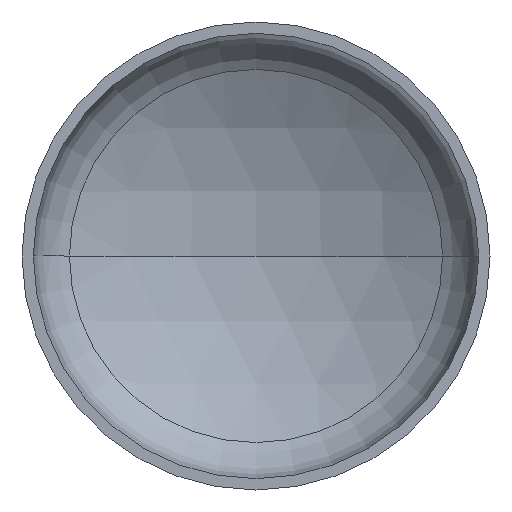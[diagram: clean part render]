
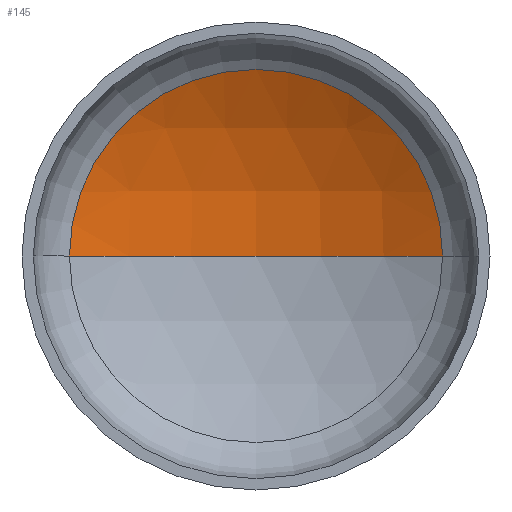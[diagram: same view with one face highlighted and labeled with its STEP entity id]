
A CAD part, front view. The second image highlights one B-rep face of the part: STEP entity #145.
In plain terms, the highlighted spherical face has radius 2240 mm.
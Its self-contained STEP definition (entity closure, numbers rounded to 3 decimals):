
#12 = AXIS2_PLACEMENT_3D ( 'NONE', #380, #200, #407 ) ;
#13 = AXIS2_PLACEMENT_3D ( 'NONE', #112, #318, #139 ) ;
#14 = AXIS2_PLACEMENT_3D ( 'NONE', #225, #60, #250 ) ;
#24 = AXIS2_PLACEMENT_3D ( 'NONE', #189, #401, #245 ) ;
#60 = DIRECTION ( 'NONE',  ( 0., -1., 0. ) ) ;
#61 = ORIENTED_EDGE ( 'NONE', *, *, #314, .T. ) ;
#77 = VERTEX_POINT ( 'NONE', #262 ) ;
#81 = CIRCLE ( 'NONE', #13, 2240. ) ;
#82 = VERTEX_POINT ( 'NONE', #263 ) ;
#88 = CIRCLE ( 'NONE', #14, 1116.287 ) ;
#112 = CARTESIAN_POINT ( 'NONE',  ( 0., -1449.234, 0. ) ) ;
#116 = CARTESIAN_POINT ( 'NONE',  ( 1116.287, 492.801, 0. ) ) ;
#139 = DIRECTION ( 'NONE',  ( -1., 0., 0. ) ) ;
#145 = ADVANCED_FACE ( 'NONE', ( #247 ), #339, .F. ) ;
#178 = EDGE_LOOP ( 'NONE', ( #405, #61, #218 ) ) ;
#189 = CARTESIAN_POINT ( 'NONE',  ( 0., -1449.234, 0. ) ) ;
#200 = DIRECTION ( 'NONE',  ( 0., 0., 1. ) ) ;
#218 = ORIENTED_EDGE ( 'NONE', *, *, #301, .T. ) ;
#225 = CARTESIAN_POINT ( 'NONE',  ( 0., 492.801, 0. ) ) ;
#245 = DIRECTION ( 'NONE',  ( -1., 0., 0. ) ) ;
#247 = FACE_OUTER_BOUND ( 'NONE', #178, .T. ) ;
#250 = DIRECTION ( 'NONE',  ( 1., 0., 0. ) ) ;
#262 = CARTESIAN_POINT ( 'NONE',  ( 0., 790.766, 0. ) ) ;
#263 = CARTESIAN_POINT ( 'NONE',  ( -1116.287, 492.801, 0. ) ) ;
#301 = EDGE_CURVE ( 'NONE', #385, #82, #88, .T. ) ;
#314 = EDGE_CURVE ( 'NONE', #77, #385, #81, .T. ) ;
#318 = DIRECTION ( 'NONE',  ( 0., 0., -1. ) ) ;
#320 = EDGE_CURVE ( 'NONE', #77, #82, #376, .T. ) ;
#339 = SPHERICAL_SURFACE ( 'NONE', #24, 2240. ) ;
#376 = CIRCLE ( 'NONE', #12, 2240. ) ;
#380 = CARTESIAN_POINT ( 'NONE',  ( 0., -1449.234, 0. ) ) ;
#385 = VERTEX_POINT ( 'NONE', #116 ) ;
#401 = DIRECTION ( 'NONE',  ( 0., 0., -1. ) ) ;
#405 = ORIENTED_EDGE ( 'NONE', *, *, #320, .F. ) ;
#407 = DIRECTION ( 'NONE',  ( 1., 0., 0. ) ) ;
